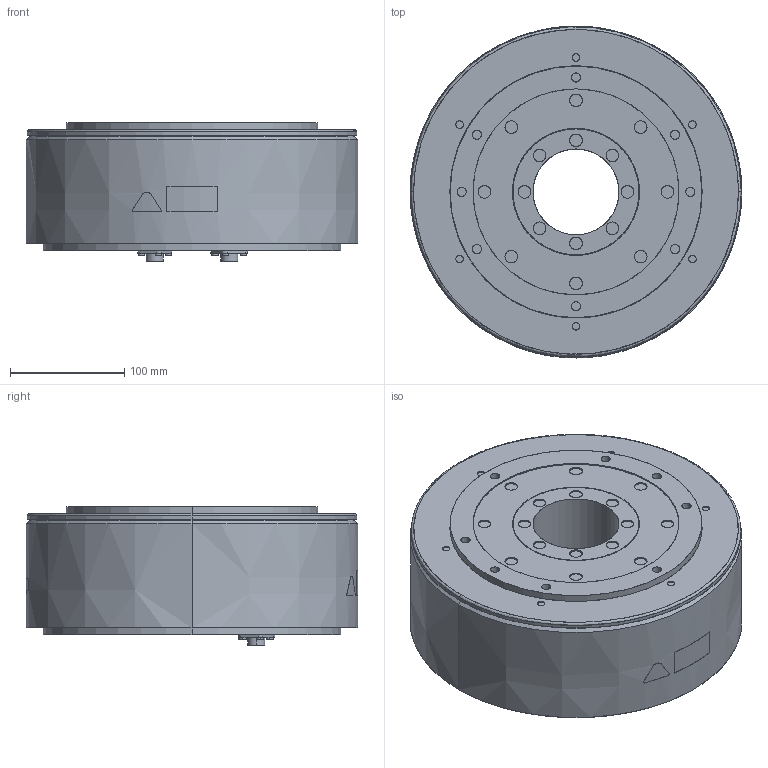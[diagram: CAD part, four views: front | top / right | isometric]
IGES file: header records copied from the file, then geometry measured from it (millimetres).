
Start section: SolidWorks IGES file using analytic representation for surfaces
Bounding box: 290 x 290.2 x 121.1 mm (x, y, z)
Surface area: 261709.8 mm2 (no closed solid volume)
Topology: 0 solids, 0 shells, 336 faces, 6815 edges, 6815 vertices
Faces by surface type: revolution 193, bspline 143
